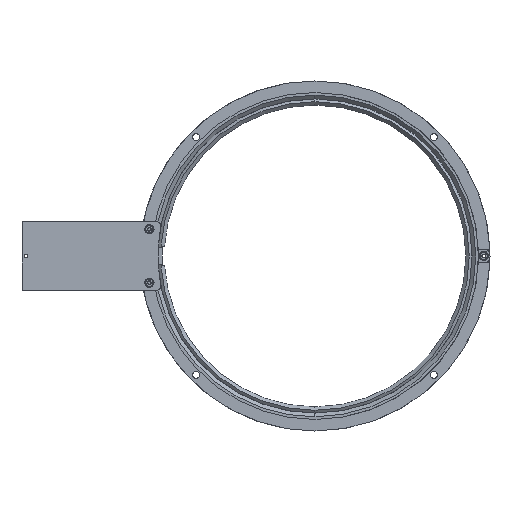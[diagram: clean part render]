
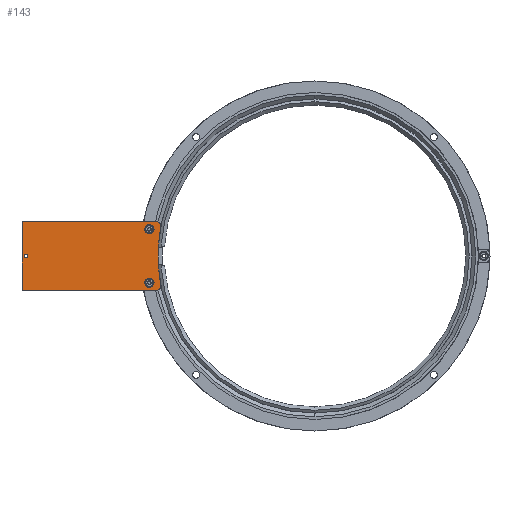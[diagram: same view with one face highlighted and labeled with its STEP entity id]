
A CAD part, top view. The second image highlights one B-rep face of the part: STEP entity #143.
In plain terms, the highlighted planar face has unit normal (0, 0, 1).
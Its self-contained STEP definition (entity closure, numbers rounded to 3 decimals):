
#1 = DIRECTION ( 'NONE',  ( -1., 0., 0. ) ) ;
#58 = ORIENTED_EDGE ( 'NONE', *, *, #4045, .T. ) ;
#115 = DIRECTION ( 'NONE',  ( 1., 0., 0. ) ) ;
#119 = CARTESIAN_POINT ( 'NONE',  ( 171.36, -73.908, 60.66 ) ) ;
#143 = ADVANCED_FACE ( 'NONE', ( #2307, #2795, #5627, #6747 ), #2864, .F. ) ;
#164 = DIRECTION ( 'NONE',  ( 0., 0., -1. ) ) ;
#189 = DIRECTION ( 'NONE',  ( 0., 1., 0. ) ) ;
#193 = ORIENTED_EDGE ( 'NONE', *, *, #2345, .T. ) ;
#304 = CARTESIAN_POINT ( 'NONE',  ( 30.86, -90.158, 60.66 ) ) ;
#315 = CARTESIAN_POINT ( 'NONE',  ( 171.36, -73.908, 60.66 ) ) ;
#348 = AXIS2_PLACEMENT_3D ( 'NONE', #3930, #6687, #115 ) ;
#504 = VERTEX_POINT ( 'NONE', #3191 ) ;
#514 = CARTESIAN_POINT ( 'NONE',  ( 94.927, -59.658, 60.66 ) ) ;
#533 = VERTEX_POINT ( 'NONE', #2046 ) ;
#541 = AXIS2_PLACEMENT_3D ( 'NONE', #5099, #164, #2333 ) ;
#559 = DIRECTION ( 'NONE',  ( 0., 0., 1. ) ) ;
#573 = EDGE_CURVE ( 'NONE', #2368, #975, #3602, .T. ) ;
#585 = CIRCLE ( 'NONE', #348, 2. ) ;
#631 = VERTEX_POINT ( 'NONE', #4460 ) ;
#652 = AXIS2_PLACEMENT_3D ( 'NONE', #315, #2603, #6492 ) ;
#814 = CARTESIAN_POINT ( 'NONE',  ( 93.66, -61.208, 60.66 ) ) ;
#975 = VERTEX_POINT ( 'NONE', #2030 ) ;
#1044 = DIRECTION ( 'NONE',  ( -1., 0., 0. ) ) ;
#1114 = CIRCLE ( 'NONE', #5155, 2.2 ) ;
#1156 = ORIENTED_EDGE ( 'NONE', *, *, #6733, .T. ) ;
#1177 = ORIENTED_EDGE ( 'NONE', *, *, #6643, .T. ) ;
#1189 = EDGE_LOOP ( 'NONE', ( #5309, #1177, #2096, #4374, #58, #1156, #2738 ) ) ;
#1243 = VERTEX_POINT ( 'NONE', #3304 ) ;
#1291 = DIRECTION ( 'NONE',  ( -1., 0., 0. ) ) ;
#1497 = CARTESIAN_POINT ( 'NONE',  ( 91.46, -61.208, 60.66 ) ) ;
#1513 = ORIENTED_EDGE ( 'NONE', *, *, #1702, .T. ) ;
#1702 = EDGE_CURVE ( 'NONE', #4663, #7136, #2720, .T. ) ;
#1713 = ORIENTED_EDGE ( 'NONE', *, *, #3964, .F. ) ;
#1714 = DIRECTION ( 'NONE',  ( -1., 0., 0. ) ) ;
#1915 = EDGE_CURVE ( 'NONE', #504, #631, #5609, .T. ) ;
#2030 = CARTESIAN_POINT ( 'NONE',  ( 96.893, -87.792, 60.66 ) ) ;
#2046 = CARTESIAN_POINT ( 'NONE',  ( 96.893, -60.025, 60.66 ) ) ;
#2083 = DIRECTION ( 'NONE',  ( 0., 0., 1. ) ) ;
#2096 = ORIENTED_EDGE ( 'NONE', *, *, #573, .F. ) ;
#2205 = DIRECTION ( 'NONE',  ( 1., 0., 0. ) ) ;
#2307 = FACE_BOUND ( 'NONE', #4312, .T. ) ;
#2333 = DIRECTION ( 'NONE',  ( 1., 0., 0. ) ) ;
#2345 = EDGE_CURVE ( 'NONE', #7136, #4663, #4458, .T. ) ;
#2363 = CIRCLE ( 'NONE', #3318, 2.2 ) ;
#2368 = VERTEX_POINT ( 'NONE', #6354 ) ;
#2513 = DIRECTION ( 'NONE',  ( -1., 0., 0. ) ) ;
#2532 = EDGE_CURVE ( 'NONE', #533, #2368, #3992, .T. ) ;
#2603 = DIRECTION ( 'NONE',  ( 0., 0., 1. ) ) ;
#2720 = CIRCLE ( 'NONE', #541, 0.8 ) ;
#2738 = ORIENTED_EDGE ( 'NONE', *, *, #6558, .F. ) ;
#2754 = EDGE_LOOP ( 'NONE', ( #4285, #3374 ) ) ;
#2795 = FACE_BOUND ( 'NONE', #3504, .T. ) ;
#2864 = PLANE ( 'NONE',  #7068 ) ;
#2886 = VECTOR ( 'NONE', #1044, 1000. ) ;
#2887 = DIRECTION ( 'NONE',  ( 1., 0., 0. ) ) ;
#2946 = LINE ( 'NONE', #3462, #5075 ) ;
#3029 = LINE ( 'NONE', #304, #5772 ) ;
#3064 = AXIS2_PLACEMENT_3D ( 'NONE', #6279, #6887, #1291 ) ;
#3077 = CARTESIAN_POINT ( 'NONE',  ( 91.46, -86.608, 60.66 ) ) ;
#3119 = VERTEX_POINT ( 'NONE', #5822 ) ;
#3191 = CARTESIAN_POINT ( 'NONE',  ( 93.66, -86.608, 60.66 ) ) ;
#3283 = LINE ( 'NONE', #5426, #2886 ) ;
#3304 = CARTESIAN_POINT ( 'NONE',  ( 30.86, -90.158, 60.66 ) ) ;
#3318 = AXIS2_PLACEMENT_3D ( 'NONE', #3077, #2083, #2513 ) ;
#3374 = ORIENTED_EDGE ( 'NONE', *, *, #1915, .F. ) ;
#3462 = CARTESIAN_POINT ( 'NONE',  ( 30.86, -90.158, 60.66 ) ) ;
#3504 = EDGE_LOOP ( 'NONE', ( #5228, #1713 ) ) ;
#3602 = CIRCLE ( 'NONE', #6617, 75.75 ) ;
#3637 = AXIS2_PLACEMENT_3D ( 'NONE', #4096, #5073, #2887 ) ;
#3749 = CARTESIAN_POINT ( 'NONE',  ( 33.66, -73.908, 60.66 ) ) ;
#3803 = VERTEX_POINT ( 'NONE', #4576 ) ;
#3850 = AXIS2_PLACEMENT_3D ( 'NONE', #514, #4930, #7131 ) ;
#3892 = CARTESIAN_POINT ( 'NONE',  ( 30.86, -90.158, 60.66 ) ) ;
#3930 = CARTESIAN_POINT ( 'NONE',  ( 94.927, -88.158, 60.66 ) ) ;
#3947 = EDGE_CURVE ( 'NONE', #631, #504, #2363, .T. ) ;
#3964 = EDGE_CURVE ( 'NONE', #5962, #3803, #1114, .T. ) ;
#3992 = CIRCLE ( 'NONE', #652, 75.75 ) ;
#4033 = CIRCLE ( 'NONE', #5896, 2.2 ) ;
#4045 = EDGE_CURVE ( 'NONE', #533, #6210, #6969, .T. ) ;
#4096 = CARTESIAN_POINT ( 'NONE',  ( 32.86, -73.908, 60.66 ) ) ;
#4149 = VERTEX_POINT ( 'NONE', #6190 ) ;
#4276 = DIRECTION ( 'NONE',  ( -1., 0., 0. ) ) ;
#4285 = ORIENTED_EDGE ( 'NONE', *, *, #3947, .F. ) ;
#4312 = EDGE_LOOP ( 'NONE', ( #1513, #193 ) ) ;
#4374 = ORIENTED_EDGE ( 'NONE', *, *, #2532, .F. ) ;
#4458 = CIRCLE ( 'NONE', #3637, 0.8 ) ;
#4460 = CARTESIAN_POINT ( 'NONE',  ( 89.26, -86.608, 60.66 ) ) ;
#4497 = CARTESIAN_POINT ( 'NONE',  ( 94.927, -57.658, 60.66 ) ) ;
#4576 = CARTESIAN_POINT ( 'NONE',  ( 89.26, -61.208, 60.66 ) ) ;
#4663 = VERTEX_POINT ( 'NONE', #3749 ) ;
#4930 = DIRECTION ( 'NONE',  ( 0., 0., 1. ) ) ;
#5073 = DIRECTION ( 'NONE',  ( 0., 0., -1. ) ) ;
#5075 = VECTOR ( 'NONE', #189, 1000. ) ;
#5099 = CARTESIAN_POINT ( 'NONE',  ( 32.86, -73.908, 60.66 ) ) ;
#5155 = AXIS2_PLACEMENT_3D ( 'NONE', #6485, #7060, #4276 ) ;
#5228 = ORIENTED_EDGE ( 'NONE', *, *, #6715, .F. ) ;
#5309 = ORIENTED_EDGE ( 'NONE', *, *, #6416, .F. ) ;
#5393 = DIRECTION ( 'NONE',  ( 0., 0., 1. ) ) ;
#5426 = CARTESIAN_POINT ( 'NONE',  ( 30.86, -57.658, 60.66 ) ) ;
#5609 = CIRCLE ( 'NONE', #3064, 2.2 ) ;
#5627 = FACE_BOUND ( 'NONE', #2754, .T. ) ;
#5663 = DIRECTION ( 'NONE',  ( 0., 0., -1. ) ) ;
#5772 = VECTOR ( 'NONE', #6911, 1000. ) ;
#5822 = CARTESIAN_POINT ( 'NONE',  ( 30.86, -57.658, 60.66 ) ) ;
#5896 = AXIS2_PLACEMENT_3D ( 'NONE', #1497, #5393, #1 ) ;
#5962 = VERTEX_POINT ( 'NONE', #814 ) ;
#6190 = CARTESIAN_POINT ( 'NONE',  ( 94.927, -90.158, 60.66 ) ) ;
#6210 = VERTEX_POINT ( 'NONE', #4497 ) ;
#6279 = CARTESIAN_POINT ( 'NONE',  ( 91.46, -86.608, 60.66 ) ) ;
#6354 = CARTESIAN_POINT ( 'NONE',  ( 95.61, -73.908, 60.66 ) ) ;
#6416 = EDGE_CURVE ( 'NONE', #4149, #1243, #3029, .T. ) ;
#6485 = CARTESIAN_POINT ( 'NONE',  ( 91.46, -61.208, 60.66 ) ) ;
#6492 = DIRECTION ( 'NONE',  ( -1., 0., 0. ) ) ;
#6558 = EDGE_CURVE ( 'NONE', #1243, #3119, #2946, .T. ) ;
#6607 = CARTESIAN_POINT ( 'NONE',  ( 32.06, -73.908, 60.66 ) ) ;
#6617 = AXIS2_PLACEMENT_3D ( 'NONE', #119, #559, #1714 ) ;
#6643 = EDGE_CURVE ( 'NONE', #4149, #975, #585, .T. ) ;
#6687 = DIRECTION ( 'NONE',  ( 0., 0., 1. ) ) ;
#6715 = EDGE_CURVE ( 'NONE', #3803, #5962, #4033, .T. ) ;
#6733 = EDGE_CURVE ( 'NONE', #6210, #3119, #3283, .T. ) ;
#6747 = FACE_OUTER_BOUND ( 'NONE', #1189, .T. ) ;
#6887 = DIRECTION ( 'NONE',  ( 0., 0., 1. ) ) ;
#6911 = DIRECTION ( 'NONE',  ( -1., 0., 0. ) ) ;
#6969 = CIRCLE ( 'NONE', #3850, 2. ) ;
#7060 = DIRECTION ( 'NONE',  ( 0., 0., 1. ) ) ;
#7068 = AXIS2_PLACEMENT_3D ( 'NONE', #3892, #5663, #2205 ) ;
#7131 = DIRECTION ( 'NONE',  ( 1., 0., 0. ) ) ;
#7136 = VERTEX_POINT ( 'NONE', #6607 ) ;
